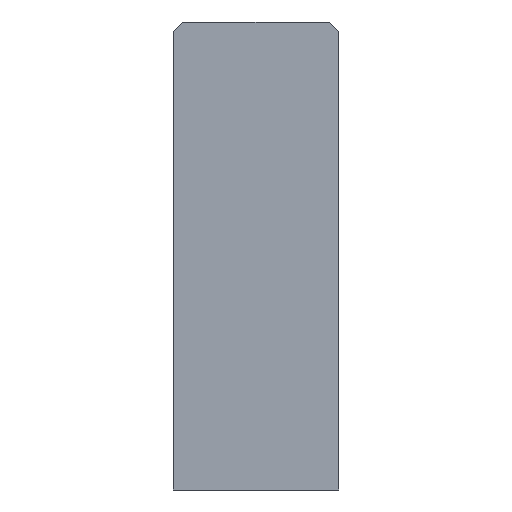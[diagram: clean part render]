
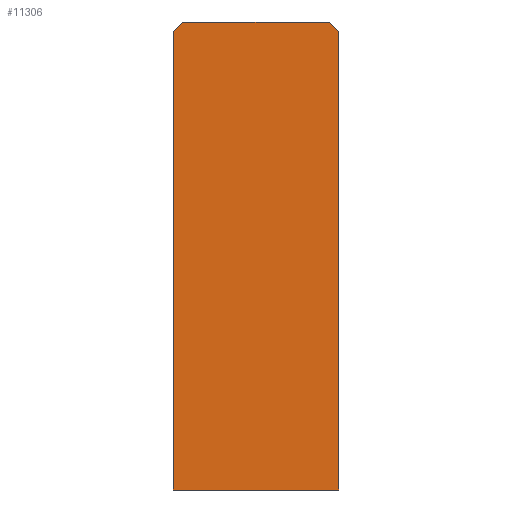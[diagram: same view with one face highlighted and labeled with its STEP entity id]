
A CAD part, left-side view. The second image highlights one B-rep face of the part: STEP entity #11306.
In plain terms, the highlighted planar face has unit normal (-1, 0, 0).
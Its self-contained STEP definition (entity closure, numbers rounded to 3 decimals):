
#374=LINE('',#41460,#692);
#378=LINE('',#41467,#696);
#384=LINE('',#41479,#702);
#386=LINE('',#41483,#704);
#387=LINE('',#41486,#705);
#389=LINE('',#41489,#707);
#692=VECTOR('',#12075,0.707);
#696=VECTOR('',#12081,8.);
#702=VECTOR('',#12091,0.707);
#704=VECTOR('',#12095,25.);
#705=VECTOR('',#12098,9.);
#707=VECTOR('',#12102,25.);
#992=PLANE('',#11595);
#1705=FACE_OUTER_BOUND('',#2487,.T.);
#2487=EDGE_LOOP('',(#8630,#8631,#8632,#8633,#8634,#8635));
#4403=VERTEX_POINT('',#41457);
#4404=VERTEX_POINT('',#41459);
#4406=VERTEX_POINT('',#41465);
#4410=VERTEX_POINT('',#41477);
#4411=VERTEX_POINT('',#41481);
#4412=VERTEX_POINT('',#41485);
#5845=EDGE_CURVE('',#4403,#4404,#374,.T.);
#5849=EDGE_CURVE('',#4406,#4403,#378,.T.);
#5855=EDGE_CURVE('',#4410,#4406,#384,.T.);
#5857=EDGE_CURVE('',#4411,#4410,#386,.T.);
#5858=EDGE_CURVE('',#4412,#4411,#387,.T.);
#5860=EDGE_CURVE('',#4404,#4412,#389,.T.);
#8630=ORIENTED_EDGE('',*,*,#5845,.F.);
#8631=ORIENTED_EDGE('',*,*,#5849,.F.);
#8632=ORIENTED_EDGE('',*,*,#5855,.F.);
#8633=ORIENTED_EDGE('',*,*,#5857,.F.);
#8634=ORIENTED_EDGE('',*,*,#5858,.F.);
#8635=ORIENTED_EDGE('',*,*,#5860,.F.);
#11306=ADVANCED_FACE('',(#1705),#992,.F.);
#11595=AXIS2_PLACEMENT_3D('',#41490,#12103,#12104);
#12075=DIRECTION('',(0.,-0.707,-0.707));
#12081=DIRECTION('',(0.,-1.,0.));
#12091=DIRECTION('',(0.,-0.707,0.707));
#12095=DIRECTION('',(0.,0.,1.));
#12098=DIRECTION('',(0.,1.,0.));
#12102=DIRECTION('',(0.,0.,-1.));
#12103=DIRECTION('center_axis',(1.,0.,0.));
#12104=DIRECTION('ref_axis',(0.,-1.,0.));
#41457=CARTESIAN_POINT('',(-5.5,-4.,0.));
#41459=CARTESIAN_POINT('',(-5.5,-4.5,-0.5));
#41460=CARTESIAN_POINT('',(-5.5,-6.313,-2.312));
#41465=CARTESIAN_POINT('',(-5.5,4.,0.));
#41467=CARTESIAN_POINT('',(-5.5,4.5,0.));
#41477=CARTESIAN_POINT('',(-5.5,4.5,-0.5));
#41479=CARTESIAN_POINT('',(-5.5,6.313,-2.313));
#41481=CARTESIAN_POINT('',(-5.5,4.5,-25.5));
#41483=CARTESIAN_POINT('',(-5.5,4.5,-25.5));
#41485=CARTESIAN_POINT('',(-5.5,-4.5,-25.5));
#41486=CARTESIAN_POINT('',(-5.5,-4.5,-25.5));
#41489=CARTESIAN_POINT('',(-5.5,-4.5,0.));
#41490=CARTESIAN_POINT('Origin',(-5.5,0.,-12.75));
